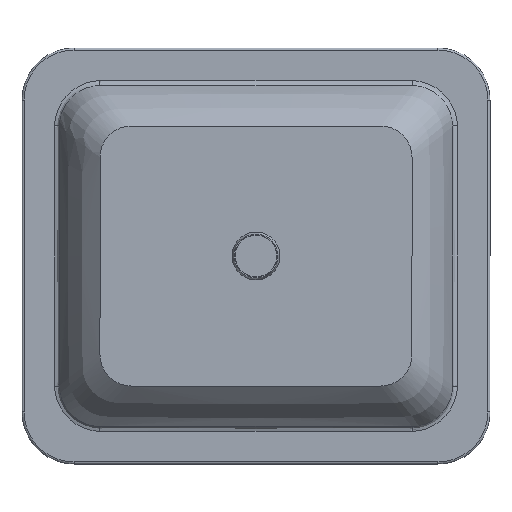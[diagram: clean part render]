
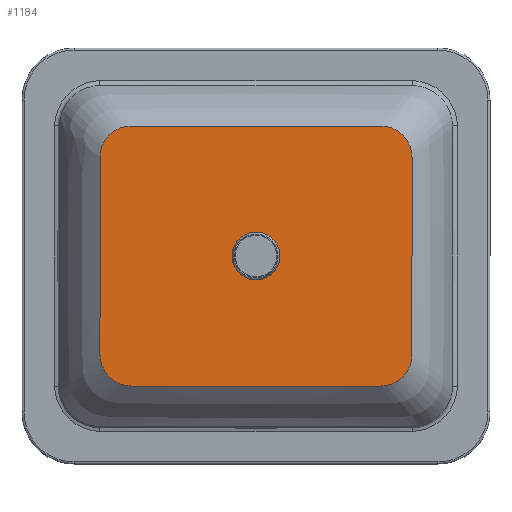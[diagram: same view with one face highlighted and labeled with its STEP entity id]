
A CAD part, front view. The second image highlights one B-rep face of the part: STEP entity #1184.
In plain terms, the highlighted planar face has unit normal (0, -1, 0).
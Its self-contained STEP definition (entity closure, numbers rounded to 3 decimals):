
#69 = DIRECTION ( 'NONE',  ( 0., 0., -1. ) ) ;
#143 = CARTESIAN_POINT ( 'NONE',  ( -150., -140., -95. ) ) ;
#187 = DIRECTION ( 'NONE',  ( 0., 1., 0. ) ) ;
#256 = DIRECTION ( 'NONE',  ( 0., 0., 1. ) ) ;
#271 = CARTESIAN_POINT ( 'NONE',  ( 120., -140., 125. ) ) ;
#338 = FACE_OUTER_BOUND ( 'NONE', #948, .T. ) ;
#369 = DIRECTION ( 'NONE',  ( 0., 0., 1. ) ) ;
#481 = EDGE_CURVE ( 'NONE', #2329, #4671, #5284, .T. ) ;
#566 = CARTESIAN_POINT ( 'NONE',  ( -120., -140., 95. ) ) ;
#577 = ORIENTED_EDGE ( 'NONE', *, *, #481, .F. ) ;
#585 = EDGE_CURVE ( 'NONE', #3505, #4960, #4587, .T. ) ;
#587 = CARTESIAN_POINT ( 'NONE',  ( -120., -140., -95. ) ) ;
#638 = DIRECTION ( 'NONE',  ( 0., 0., 1. ) ) ;
#699 = VECTOR ( 'NONE', #256, 1000. ) ;
#713 = DIRECTION ( 'NONE',  ( 0., 0., 1. ) ) ;
#825 = AXIS2_PLACEMENT_3D ( 'NONE', #4000, #2198, #369 ) ;
#906 = VERTEX_POINT ( 'NONE', #4602 ) ;
#948 = EDGE_LOOP ( 'NONE', ( #4063, #577, #2543, #5778, #1502, #1940, #4678, #2118 ) ) ;
#975 = CARTESIAN_POINT ( 'NONE',  ( 150., -140., 95. ) ) ;
#1156 = CARTESIAN_POINT ( 'NONE',  ( -120., -140., 125. ) ) ;
#1184 = ADVANCED_FACE ( 'NONE', ( #1712, #338 ), #4924, .F. ) ;
#1208 = VERTEX_POINT ( 'NONE', #2257 ) ;
#1412 = AXIS2_PLACEMENT_3D ( 'NONE', #5002, #2247, #4016 ) ;
#1458 = DIRECTION ( 'NONE',  ( 0., 0., 1. ) ) ;
#1491 = EDGE_CURVE ( 'NONE', #906, #906, #5928, .T. ) ;
#1502 = ORIENTED_EDGE ( 'NONE', *, *, #585, .F. ) ;
#1712 = FACE_BOUND ( 'NONE', #3291, .T. ) ;
#1861 = CARTESIAN_POINT ( 'NONE',  ( 0., -140., 0. ) ) ;
#1940 = ORIENTED_EDGE ( 'NONE', *, *, #2788, .F. ) ;
#1971 = AXIS2_PLACEMENT_3D ( 'NONE', #587, #3019, #713 ) ;
#2118 = ORIENTED_EDGE ( 'NONE', *, *, #3104, .F. ) ;
#2198 = DIRECTION ( 'NONE',  ( 0., 1., 0. ) ) ;
#2247 = DIRECTION ( 'NONE',  ( 0., 1., 0. ) ) ;
#2257 = CARTESIAN_POINT ( 'NONE',  ( -150., -140., 95. ) ) ;
#2329 = VERTEX_POINT ( 'NONE', #2612 ) ;
#2351 = CIRCLE ( 'NONE', #3024, 30. ) ;
#2537 = LINE ( 'NONE', #143, #699 ) ;
#2543 = ORIENTED_EDGE ( 'NONE', *, *, #5139, .F. ) ;
#2569 = VERTEX_POINT ( 'NONE', #3460 ) ;
#2577 = CARTESIAN_POINT ( 'NONE',  ( 120., -140., -125. ) ) ;
#2612 = CARTESIAN_POINT ( 'NONE',  ( 120., -140., -125. ) ) ;
#2788 = EDGE_CURVE ( 'NONE', #5261, #3505, #5784, .T. ) ;
#3019 = DIRECTION ( 'NONE',  ( 0., 1., 0. ) ) ;
#3024 = AXIS2_PLACEMENT_3D ( 'NONE', #4299, #187, #638 ) ;
#3104 = EDGE_CURVE ( 'NONE', #2569, #1208, #2537, .T. ) ;
#3291 = EDGE_LOOP ( 'NONE', ( #3532 ) ) ;
#3299 = EDGE_CURVE ( 'NONE', #4671, #2569, #5327, .T. ) ;
#3338 = LINE ( 'NONE', #4206, #4461 ) ;
#3340 = CARTESIAN_POINT ( 'NONE',  ( 150., -140., -95. ) ) ;
#3341 = DIRECTION ( 'NONE',  ( 0., 0., -1. ) ) ;
#3355 = AXIS2_PLACEMENT_3D ( 'NONE', #1861, #4633, #3341 ) ;
#3460 = CARTESIAN_POINT ( 'NONE',  ( -150., -140., -95. ) ) ;
#3499 = AXIS2_PLACEMENT_3D ( 'NONE', #566, #4317, #1458 ) ;
#3505 = VERTEX_POINT ( 'NONE', #271 ) ;
#3532 = ORIENTED_EDGE ( 'NONE', *, *, #1491, .F. ) ;
#3597 = VECTOR ( 'NONE', #3901, 1000. ) ;
#3662 = EDGE_CURVE ( 'NONE', #4960, #5932, #3338, .T. ) ;
#3901 = DIRECTION ( 'NONE',  ( 1., 0., 0. ) ) ;
#4000 = CARTESIAN_POINT ( 'NONE',  ( -120., -140., -95. ) ) ;
#4016 = DIRECTION ( 'NONE',  ( 0., 0., -1. ) ) ;
#4060 = CARTESIAN_POINT ( 'NONE',  ( -120., -140., -125. ) ) ;
#4063 = ORIENTED_EDGE ( 'NONE', *, *, #3299, .F. ) ;
#4206 = CARTESIAN_POINT ( 'NONE',  ( 150., -140., 95. ) ) ;
#4299 = CARTESIAN_POINT ( 'NONE',  ( 120., -140., -95. ) ) ;
#4317 = DIRECTION ( 'NONE',  ( 0., 1., 0. ) ) ;
#4322 = EDGE_CURVE ( 'NONE', #1208, #5261, #5795, .T. ) ;
#4445 = CARTESIAN_POINT ( 'NONE',  ( -120., -140., 125. ) ) ;
#4461 = VECTOR ( 'NONE', #69, 1000. ) ;
#4587 = CIRCLE ( 'NONE', #1412, 30. ) ;
#4602 = CARTESIAN_POINT ( 'NONE',  ( 0., -140., -23. ) ) ;
#4633 = DIRECTION ( 'NONE',  ( 0., -1., 0. ) ) ;
#4671 = VERTEX_POINT ( 'NONE', #4060 ) ;
#4678 = ORIENTED_EDGE ( 'NONE', *, *, #4322, .F. ) ;
#4883 = DIRECTION ( 'NONE',  ( -1., 0., 0. ) ) ;
#4924 = PLANE ( 'NONE',  #825 ) ;
#4960 = VERTEX_POINT ( 'NONE', #975 ) ;
#5002 = CARTESIAN_POINT ( 'NONE',  ( 120., -140., 95. ) ) ;
#5139 = EDGE_CURVE ( 'NONE', #5932, #2329, #2351, .T. ) ;
#5261 = VERTEX_POINT ( 'NONE', #4445 ) ;
#5284 = LINE ( 'NONE', #2577, #5352 ) ;
#5327 = CIRCLE ( 'NONE', #1971, 30. ) ;
#5352 = VECTOR ( 'NONE', #4883, 1000. ) ;
#5778 = ORIENTED_EDGE ( 'NONE', *, *, #3662, .F. ) ;
#5784 = LINE ( 'NONE', #1156, #3597 ) ;
#5795 = CIRCLE ( 'NONE', #3499, 30. ) ;
#5928 = CIRCLE ( 'NONE', #3355, 23. ) ;
#5932 = VERTEX_POINT ( 'NONE', #3340 ) ;
